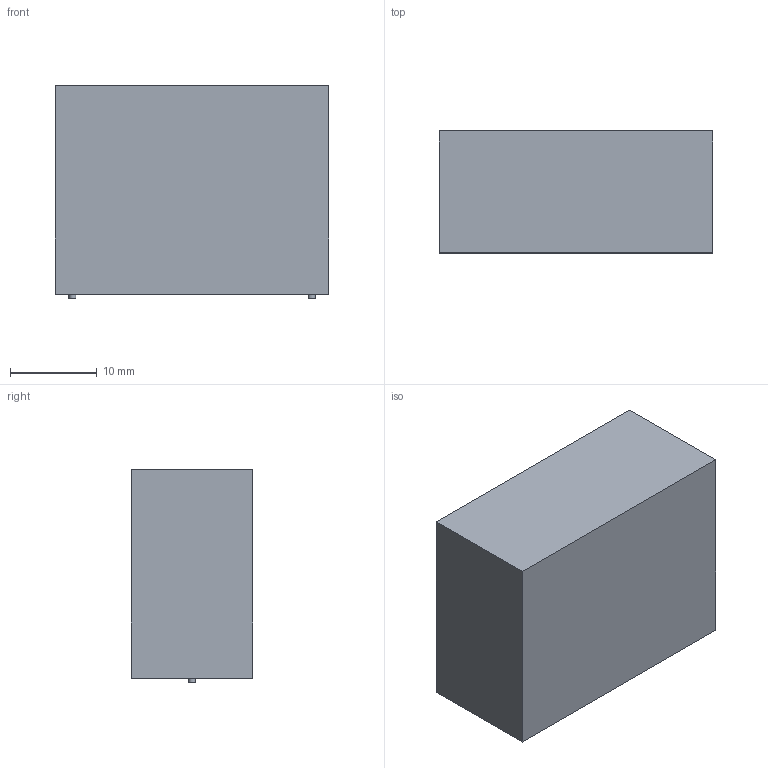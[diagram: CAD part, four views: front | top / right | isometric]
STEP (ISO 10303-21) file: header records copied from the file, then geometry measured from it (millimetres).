
FILE_DESCRIPTION(('Open CASCADE Model'),'2;1');
FILE_NAME('Open CASCADE Shape Model','2026-09-26T00:00:00',('Author'),( 'Open CASCADE'),'Open CASCADE STEP processor 7.9','Open CASCADE 7.9' ,'Unknown');
FILE_SCHEMA(('AUTOMOTIVE_DESIGN { 1 0 10303 214 1 1 1 1 }'));
Length unit declared in the file: millimetre
Products named in the file (4): Open CASCADE STEP translator 7.9 6; Open CASCADE STEP translator 7.9 6.1; Open CASCADE STEP translator 7.9 6.2; Open CASCADE STEP translator 7.9 6.3
Assembly tree (3 placements, depth 2):
  Open CASCADE STEP translator 7.9 6
    Open CASCADE STEP translator 7.9 6.1
    Open CASCADE STEP translator 7.9 6.2
    Open CASCADE STEP translator 7.9 6.3
Bounding box: 31.5 x 14 x 24.5 mm (x, y, z)
Volume: 10584.7 mm3; surface area: 3071.5 mm2
Topology: 3 solids, 3 shells, 12 faces, 18 edges, 12 vertices
Faces by surface type: plane 10, cylinder 2
Full cylindrical faces by diameter (mm): 0.8 x2
Entity records: 560 total; most frequent: DIRECTION 90, CARTESIAN_POINT 82, LINE 46, VECTOR 46, ORIENTED_EDGE 36, PCURVE 36, DEFINITIONAL_REPRESENTATION 36, AXIS2_PLACEMENT_3D 20
